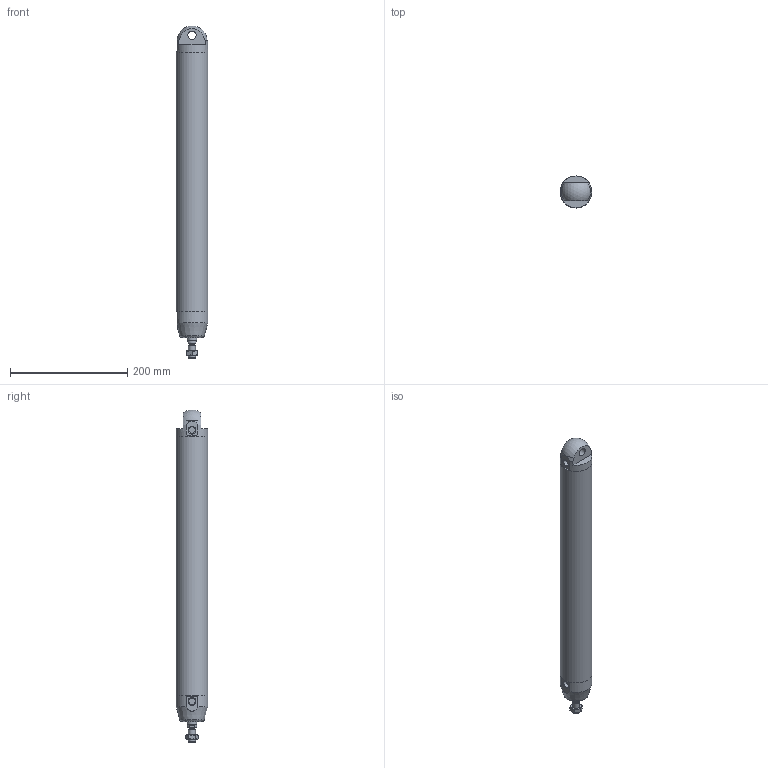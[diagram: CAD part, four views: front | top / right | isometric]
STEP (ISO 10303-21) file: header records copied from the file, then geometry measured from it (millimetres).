
FILE_DESCRIPTION(/* description */ (''),/* implementation_level */ '2;1');
FILE_NAME(/* name */ 'I:\Area Tecnica\Documenti\A-Manieri\_Inventor\12X\12X#A_###_####_#_#\12XAA_050_0400_#_#.stp',/* time_stamp */ '2015-04-22T12:05:13+02:00',/* author */ ('maniean1'),/* organization */ ('Pneumax S.p.A.'),/* preprocessor_version */ 'ST-DEVELOPER v15.2',/* originating_system */ 'Autodesk Inventor 2014',/* authorisation */ '');
FILE_SCHEMA (('AUTOMOTIVE_DESIGN { 1 0 10303 214 3 1 1 }'));
Length unit declared in the file: millimetre
Products named in the file (6): C1250_619-0400; 12X50_613; 12X50_605; S12X50_0400; 12X_50_11; 12XAA_050_0400_#_#
Bounding box: 54 x 54 x 566.83 mm (x, y, z)
Volume: 465262.5 mm3; surface area: 204478.1 mm2
Topology: 5 solids, 5 shells, 59 faces, 126 edges, 81 vertices
Faces by surface type: plane 31, cylinder 14, cone 12, torus 1, sphere 1
Full cylindrical faces by diameter (mm): 10.2 x1, 11.4 x2, 12 x2, 14 x2, 15.6 x1, 16 x1, 50 x2, 54 x3
Entity records: 1560 total; most frequent: CARTESIAN_POINT 288, DIRECTION 266, ORIENTED_EDGE 196, AXIS2_PLACEMENT_3D 120, EDGE_CURVE 98, EDGE_LOOP 94, VERTEX_POINT 76, ADVANCED_FACE 59
